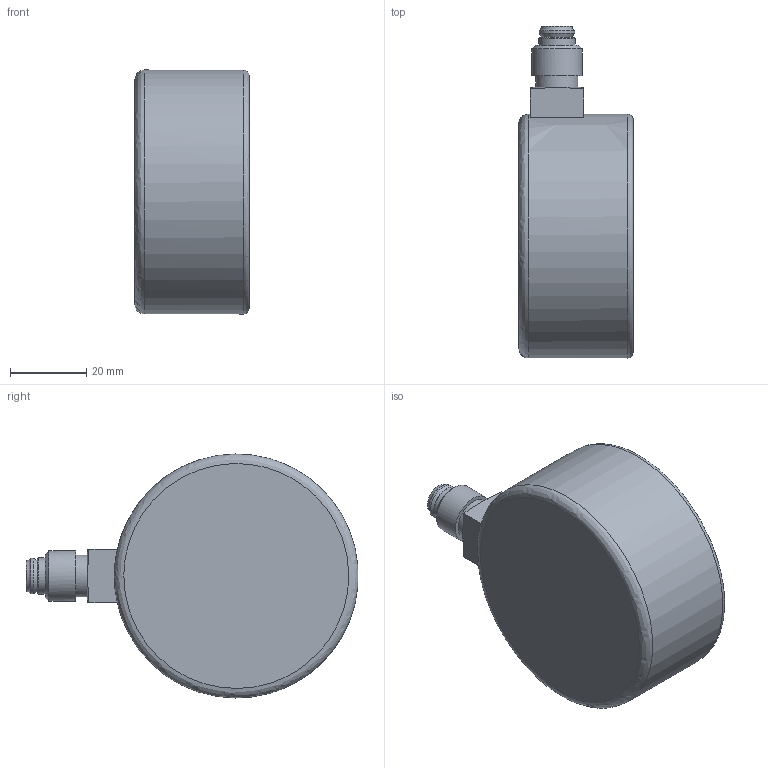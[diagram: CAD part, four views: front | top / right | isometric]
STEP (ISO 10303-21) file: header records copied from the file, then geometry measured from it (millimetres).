
FILE_DESCRIPTION((''),'2;1');
FILE_NAME('U:\Users\a.heinl\DG101_04.stp','2013-05-13T14:47:53',( 'User'),('SDRC'),'I-DEAS Master Series 9','UNIX','Yes');
FILE_SCHEMA(('AUTOMOTIVE_DESIGN { 1 0 10303 214 1 1 1 1 }'));
Length unit declared in the file: millimetre
Products named in the file (1): 11891700(318642)
Bounding box: 30 x 87.07 x 64 mm (x, y, z)
Volume: 100042.4 mm3; surface area: 13277 mm2
Topology: 1 solids, 1 shells, 28 faces, 54 edges, 33 vertices
Faces by surface type: bspline 28
Entity records: 986 total; most frequent: CARTESIAN_POINT 622, ORIENTED_EDGE 108, EDGE_CURVE 54, VERTEX_POINT 33, EDGE_LOOP 33, FACE_OUTER_BOUND 28, ADVANCED_FACE 28, QUASI_UNIFORM_SURFACE 12
